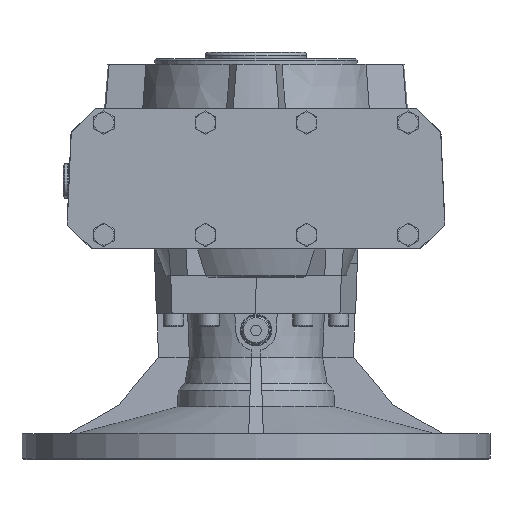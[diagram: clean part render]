
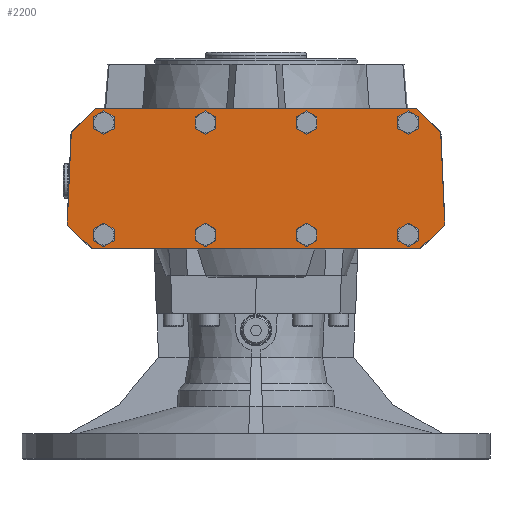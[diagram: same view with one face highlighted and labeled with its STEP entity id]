
A CAD part, front view. The second image highlights one B-rep face of the part: STEP entity #2200.
In plain terms, the highlighted planar face has unit normal (0, -1, 0).
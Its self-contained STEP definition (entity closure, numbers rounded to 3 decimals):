
#2200 = ADVANCED_FACE( '', ( #4913, #4914, #4915, #4916, #4917, #4918, #4919, #4920, #4921 ), #4922, .F. );
#4913 = FACE_BOUND( '', #7980, .T. );
#4914 = FACE_BOUND( '', #7981, .T. );
#4915 = FACE_BOUND( '', #7982, .T. );
#4916 = FACE_BOUND( '', #7983, .T. );
#4917 = FACE_BOUND( '', #7984, .T. );
#4918 = FACE_BOUND( '', #7985, .T. );
#4919 = FACE_BOUND( '', #7986, .T. );
#4920 = FACE_BOUND( '', #7987, .T. );
#4921 = FACE_OUTER_BOUND( '', #7988, .T. );
#4922 = PLANE( '', #7989 );
#7980 = EDGE_LOOP( '', ( #13846 ) );
#7981 = EDGE_LOOP( '', ( #13847 ) );
#7982 = EDGE_LOOP( '', ( #13848 ) );
#7983 = EDGE_LOOP( '', ( #13849 ) );
#7984 = EDGE_LOOP( '', ( #13850 ) );
#7985 = EDGE_LOOP( '', ( #13851 ) );
#7986 = EDGE_LOOP( '', ( #13852 ) );
#7987 = EDGE_LOOP( '', ( #13853 ) );
#7988 = EDGE_LOOP( '', ( #13854, #13855, #13856, #13857, #13858, #13859, #13860, #13861, #13862, #13863 ) );
#7989 = AXIS2_PLACEMENT_3D( '', #13864, #13865, #13866 );
#13846 = ORIENTED_EDGE( '', *, *, #17350, .T. );
#13847 = ORIENTED_EDGE( '', *, *, #15670, .T. );
#13848 = ORIENTED_EDGE( '', *, *, #17864, .T. );
#13849 = ORIENTED_EDGE( '', *, *, #17341, .T. );
#13850 = ORIENTED_EDGE( '', *, *, #17047, .T. );
#13851 = ORIENTED_EDGE( '', *, *, #16889, .T. );
#13852 = ORIENTED_EDGE( '', *, *, #17865, .T. );
#13853 = ORIENTED_EDGE( '', *, *, #17465, .T. );
#13854 = ORIENTED_EDGE( '', *, *, #17364, .F. );
#13855 = ORIENTED_EDGE( '', *, *, #17510, .T. );
#13856 = ORIENTED_EDGE( '', *, *, #16950, .F. );
#13857 = ORIENTED_EDGE( '', *, *, #15971, .T. );
#13858 = ORIENTED_EDGE( '', *, *, #17399, .F. );
#13859 = ORIENTED_EDGE( '', *, *, #17209, .F. );
#13860 = ORIENTED_EDGE( '', *, *, #17866, .T. );
#13861 = ORIENTED_EDGE( '', *, *, #17540, .F. );
#13862 = ORIENTED_EDGE( '', *, *, #15996, .T. );
#13863 = ORIENTED_EDGE( '', *, *, #17786, .F. );
#13864 = CARTESIAN_POINT( '', ( -120.9, -113., -28.6 ) );
#13865 = DIRECTION( '', ( 0., 1., 0. ) );
#13866 = DIRECTION( '', ( 1., 0., 0. ) );
#15670 = EDGE_CURVE( '', #18241, #18241, #18242, .T. );
#15971 = EDGE_CURVE( '', #18768, #18766, #18769, .T. );
#15996 = EDGE_CURVE( '', #18811, #18809, #18812, .T. );
#16889 = EDGE_CURVE( '', #20251, #20251, #20252, .T. );
#16950 = EDGE_CURVE( '', #18768, #20341, #20342, .T. );
#17047 = EDGE_CURVE( '', #20482, #20482, #20483, .T. );
#17209 = EDGE_CURVE( '', #20713, #20715, #20716, .F. );
#17341 = EDGE_CURVE( '', #20890, #20890, #20891, .T. );
#17350 = EDGE_CURVE( '', #20902, #20902, #20903, .T. );
#17364 = EDGE_CURVE( '', #20919, #20921, #20922, .F. );
#17399 = EDGE_CURVE( '', #20715, #18766, #20969, .F. );
#17465 = EDGE_CURVE( '', #21058, #21058, #21059, .T. );
#17510 = EDGE_CURVE( '', #20919, #20341, #21116, .T. );
#17540 = EDGE_CURVE( '', #18811, #21153, #21154, .T. );
#17786 = EDGE_CURVE( '', #20921, #18809, #21467, .F. );
#17864 = EDGE_CURVE( '', #21557, #21557, #21558, .T. );
#17865 = EDGE_CURVE( '', #21559, #21559, #21560, .T. );
#17866 = EDGE_CURVE( '', #20713, #21153, #21561, .T. );
#18241 = VERTEX_POINT( '', #21960 );
#18242 = CIRCLE( '', #21961, 5.7 );
#18766 = VERTEX_POINT( '', #22768 );
#18768 = VERTEX_POINT( '', #22771 );
#18769 = LINE( '', #22772, #22773 );
#18809 = VERTEX_POINT( '', #22819 );
#18811 = VERTEX_POINT( '', #22822 );
#18812 = LINE( '', #22823, #22824 );
#20251 = VERTEX_POINT( '', #24944 );
#20252 = CIRCLE( '', #24945, 5.7 );
#20341 = VERTEX_POINT( '', #25090 );
#20342 = LINE( '', #25091, #25092 );
#20482 = VERTEX_POINT( '', #25316 );
#20483 = CIRCLE( '', #25317, 5.7 );
#20713 = VERTEX_POINT( '', #25669 );
#20715 = VERTEX_POINT( '', #25672 );
#20716 = LINE( '', #25673, #25674 );
#20890 = VERTEX_POINT( '', #25961 );
#20891 = CIRCLE( '', #25962, 5.7 );
#20902 = VERTEX_POINT( '', #25977 );
#20903 = CIRCLE( '', #25978, 5.7 );
#20919 = VERTEX_POINT( '', #26001 );
#20921 = VERTEX_POINT( '', #26004 );
#20922 = LINE( '', #26005, #26006 );
#20969 = LINE( '', #26079, #26080 );
#21058 = VERTEX_POINT( '', #26205 );
#21059 = CIRCLE( '', #26206, 5.7 );
#21116 = LINE( '', #26283, #26284 );
#21153 = VERTEX_POINT( '', #26340 );
#21154 = LINE( '', #26341, #26342 );
#21467 = LINE( '', #26777, #26778 );
#21557 = VERTEX_POINT( '', #26919 );
#21558 = CIRCLE( '', #26920, 5.7 );
#21559 = VERTEX_POINT( '', #26921 );
#21560 = CIRCLE( '', #26922, 5.7 );
#21561 = LINE( '', #26923, #26924 );
#21960 = CARTESIAN_POINT( '', ( -38.2, -113., -109.5 ) );
#21961 = AXIS2_PLACEMENT_3D( '', #27500, #27501, #27502 );
#22768 = CARTESIAN_POINT( '', ( -118.415, -113., -43.586 ) );
#22771 = CARTESIAN_POINT( '', ( -102.761, -113., -28.6 ) );
#22772 = CARTESIAN_POINT( '', ( -102.761, -113., -28.6 ) );
#22773 = VECTOR( '', #27806, 1000. );
#22819 = CARTESIAN_POINT( '', ( 120.747, -113., -103.421 ) );
#22822 = CARTESIAN_POINT( '', ( 104.962, -113., -118.4 ) );
#22823 = CARTESIAN_POINT( '', ( 104.962, -113., -118.4 ) );
#22824 = VECTOR( '', #27847, 1000. );
#24944 = CARTESIAN_POINT( '', ( 26.8, -113., -37.5 ) );
#24945 = AXIS2_PLACEMENT_3D( '', #28895, #28896, #28897 );
#25090 = CARTESIAN_POINT( '', ( 102.761, -113., -28.6 ) );
#25091 = CARTESIAN_POINT( '', ( -120.9, -113., -28.6 ) );
#25092 = VECTOR( '', #28952, 1000. );
#25316 = CARTESIAN_POINT( '', ( 91.8, -113., -37.5 ) );
#25317 = AXIS2_PLACEMENT_3D( '', #29053, #29054, #29055 );
#25669 = CARTESIAN_POINT( '', ( -120.747, -113., -103.421 ) );
#25672 = CARTESIAN_POINT( '', ( -120.9, -113., -100.5 ) );
#25673 = CARTESIAN_POINT( '', ( -120.9, -113., -100.5 ) );
#25674 = VECTOR( '', #29233, 1000. );
#25961 = CARTESIAN_POINT( '', ( 91.8, -113., -109.5 ) );
#25962 = AXIS2_PLACEMENT_3D( '', #29342, #29343, #29344 );
#25977 = CARTESIAN_POINT( '', ( -103.2, -113., -37.5 ) );
#25978 = AXIS2_PLACEMENT_3D( '', #29349, #29350, #29351 );
#26001 = CARTESIAN_POINT( '', ( 118.415, -113., -43.586 ) );
#26004 = CARTESIAN_POINT( '', ( 120.9, -113., -100.5 ) );
#26005 = CARTESIAN_POINT( '', ( 120.9, -113., -100.5 ) );
#26006 = VECTOR( '', #29366, 1000. );
#26079 = CARTESIAN_POINT( '', ( -120.9, -113., -100.5 ) );
#26080 = VECTOR( '', #29393, 1000. );
#26205 = CARTESIAN_POINT( '', ( -103.2, -113., -109.5 ) );
#26206 = AXIS2_PLACEMENT_3D( '', #29452, #29453, #29454 );
#26283 = CARTESIAN_POINT( '', ( 118.415, -113., -43.586 ) );
#26284 = VECTOR( '', #29502, 1000. );
#26340 = CARTESIAN_POINT( '', ( -104.962, -113., -118.4 ) );
#26341 = CARTESIAN_POINT( '', ( 120.9, -113., -118.4 ) );
#26342 = VECTOR( '', #29524, 1000. );
#26777 = CARTESIAN_POINT( '', ( 120.9, -113., -100.5 ) );
#26778 = VECTOR( '', #29748, 1000. );
#26919 = CARTESIAN_POINT( '', ( 26.8, -113., -109.5 ) );
#26920 = AXIS2_PLACEMENT_3D( '', #29792, #29793, #29794 );
#26921 = CARTESIAN_POINT( '', ( -38.2, -113., -37.5 ) );
#26922 = AXIS2_PLACEMENT_3D( '', #29795, #29796, #29797 );
#26923 = CARTESIAN_POINT( '', ( -120.747, -113., -103.421 ) );
#26924 = VECTOR( '', #29798, 1000. );
#27500 = CARTESIAN_POINT( '', ( -32.5, -113., -109.5 ) );
#27501 = DIRECTION( '', ( 0., 1., 0. ) );
#27502 = DIRECTION( '', ( -1., 0., 0. ) );
#27806 = DIRECTION( '', ( -0.722, 0., -0.692 ) );
#27847 = DIRECTION( '', ( 0.725, 0., 0.688 ) );
#28895 = CARTESIAN_POINT( '', ( 32.5, -113., -37.5 ) );
#28896 = DIRECTION( '', ( 0., 1., 0. ) );
#28897 = DIRECTION( '', ( -1., 0., 0. ) );
#28952 = DIRECTION( '', ( 1., 0., 0. ) );
#29053 = CARTESIAN_POINT( '', ( 97.5, -113., -37.5 ) );
#29054 = DIRECTION( '', ( 0., 1., 0. ) );
#29055 = DIRECTION( '', ( -1., 0., 0. ) );
#29233 = DIRECTION( '', ( 0.052, 0., -0.999 ) );
#29342 = CARTESIAN_POINT( '', ( 97.5, -113., -109.5 ) );
#29343 = DIRECTION( '', ( 0., 1., 0. ) );
#29344 = DIRECTION( '', ( -1., 0., 0. ) );
#29349 = CARTESIAN_POINT( '', ( -97.5, -113., -37.5 ) );
#29350 = DIRECTION( '', ( 0., 1., 0. ) );
#29351 = DIRECTION( '', ( -1., 0., 0. ) );
#29366 = DIRECTION( '', ( -0.044, 0., 0.999 ) );
#29393 = DIRECTION( '', ( -0.044, 0., -0.999 ) );
#29452 = CARTESIAN_POINT( '', ( -97.5, -113., -109.5 ) );
#29453 = DIRECTION( '', ( 0., 1., 0. ) );
#29454 = DIRECTION( '', ( -1., 0., 0. ) );
#29502 = DIRECTION( '', ( -0.722, 0., 0.692 ) );
#29524 = DIRECTION( '', ( -1., 0., 0. ) );
#29748 = DIRECTION( '', ( 0.052, 0., 0.999 ) );
#29792 = CARTESIAN_POINT( '', ( 32.5, -113., -109.5 ) );
#29793 = DIRECTION( '', ( 0., 1., 0. ) );
#29794 = DIRECTION( '', ( -1., 0., 0. ) );
#29795 = CARTESIAN_POINT( '', ( -32.5, -113., -37.5 ) );
#29796 = DIRECTION( '', ( 0., 1., 0. ) );
#29797 = DIRECTION( '', ( -1., 0., 0. ) );
#29798 = DIRECTION( '', ( 0.725, 0., -0.688 ) );
